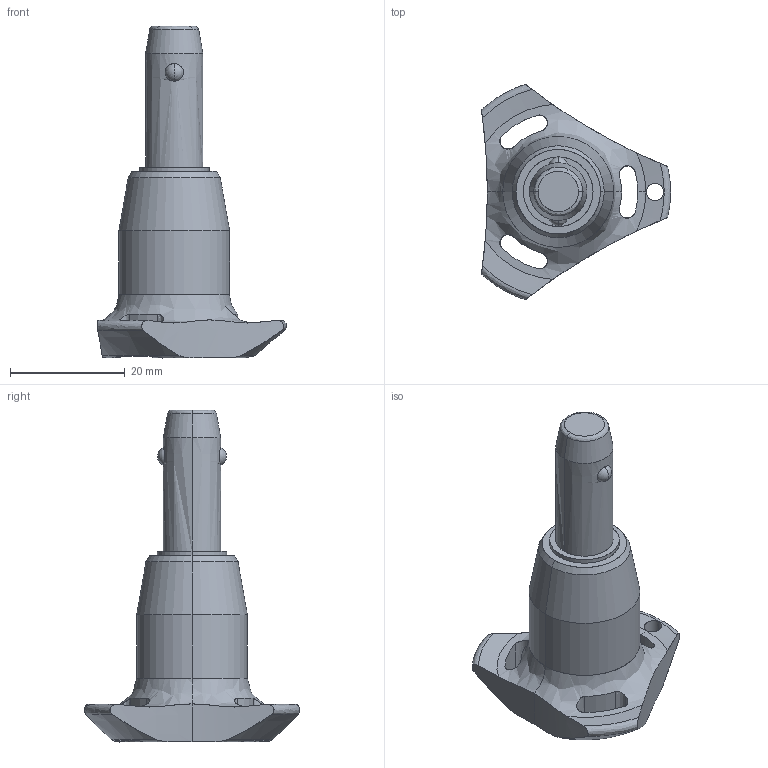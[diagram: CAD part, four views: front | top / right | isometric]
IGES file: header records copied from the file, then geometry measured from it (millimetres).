
Start section: SolidWorks IGES file using analytic representation for surfaces
Global section: file name: C:\Users\ianosborn\Desktop\QR1724_v2\QR1724_v2_20251112_IGES\QR1724.M10-015-S.igs; native system: SolidWorks 2019; preprocessor: SolidWorks 2019; author: IanOsborn; date: 251112.125424; units: millimetre
Bounding box: 33 x 37.51 x 57.9 mm (x, y, z)
Surface area: 4635.7 mm2 (no closed solid volume)
Topology: 0 solids, 0 shells, 65 faces, 1282 edges, 1278 vertices
Faces by surface type: revolution 50, bspline 15
